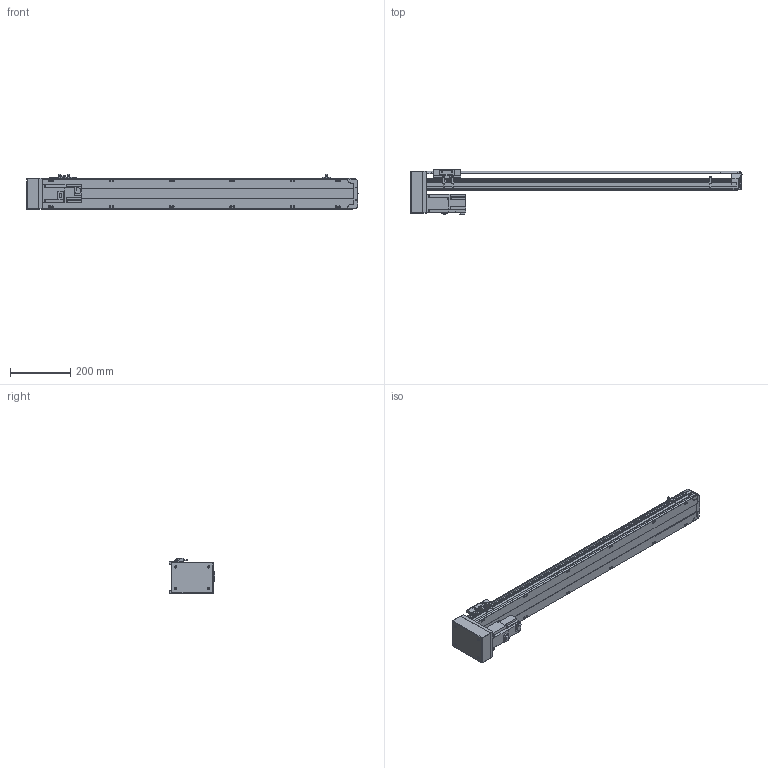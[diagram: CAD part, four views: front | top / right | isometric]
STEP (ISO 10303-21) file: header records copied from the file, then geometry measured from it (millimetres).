
FILE_DESCRIPTION( ( 'STEP AP214' ), '1' );
FILE_NAME( 'x:/temp/worker_27/temp/exporttempdir_6708_77_SkboV/format_0/PSS120-L10-S850-BM-T40-C1-N(0).stp', '2022-06-06T00:26:57', ( 'License CC BY-ND 4.0' ), ( 'CADENAS' ), ' ', 'PARTsolutions', ' ' );
FILE_SCHEMA( ( 'AUTOMOTIVE_DESIGN { 1 0 10303 214 1 1 1 1 }' ) );
Length unit declared in the file: millimetre
Products named in the file (8): PSS120-L10-S850-BM-T40-C1-N(0); _PSS120-S850-BM-C1-N_body; _PSS120-N_Q; _PSS120-BM-C1-N_sl; _PSS120-N_sensor; _PSS120BM-N_h; _T40-p1; _PSS120-S850-BM-N_S
Assembly tree (9 placements, depth 2):
  PSS120-L10-S850-BM-T40-C1-N(0)
    _PSS120-S850-BM-C1-N_body
    _PSS120-N_Q
    _PSS120-BM-C1-N_sl
    _PSS120-N_sensor  x3
    _PSS120BM-N_h
    _T40-p1
    _PSS120-S850-BM-N_S
Bounding box: 1099.35 x 151.8 x 117.7 mm (x, y, z)
Volume: 4421821.7 mm3; surface area: 728001.7 mm2
Topology: 9 solids, 9 shells, 841 faces, 2261 edges, 1500 vertices
Faces by surface type: plane 580, cylinder 237, cone 20, sphere 4
Full cylindrical faces by diameter (mm): 2.8 x3, 4 x4, 4.134 x16, 4.4 x2, 4.5 x4, 4.6 x3, 5 x6, 5.5 x19, 7 x2, 7.4 x4, 8 x4, 8.5 x16, 14 x1, 28 x1, 32 x2, 50 x1
Entity records: 28957 total; most frequent: CARTESIAN_POINT 4520, DIRECTION 3779, ORIENTED_EDGE 3694, EDGE_CURVE 1847, LINE 1305, VECTOR 1305, VERTEX_POINT 1286, AXIS2_PLACEMENT_3D 1237
